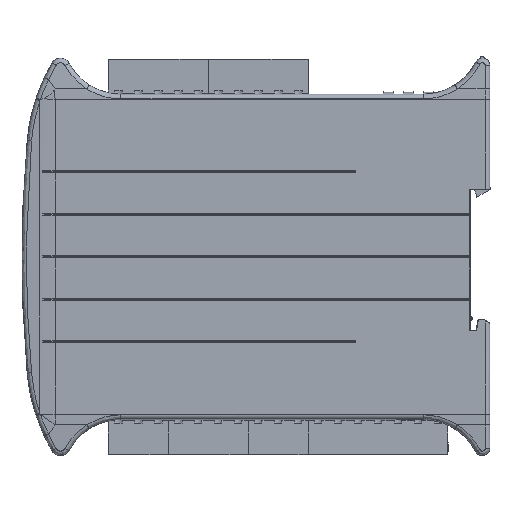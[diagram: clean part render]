
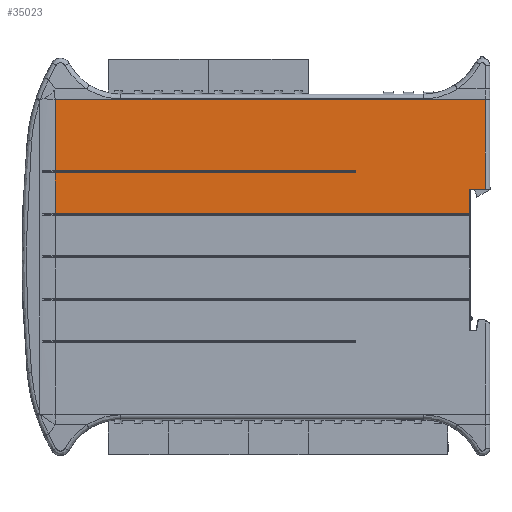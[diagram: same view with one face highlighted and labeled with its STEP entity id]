
A CAD part, left-side view. The second image highlights one B-rep face of the part: STEP entity #35023.
In plain terms, the highlighted planar face has unit normal (-1, 0, 0) as drawn and (0, 0, -1) by its records, which use the part's own axes.
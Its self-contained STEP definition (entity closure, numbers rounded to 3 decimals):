
#4987 = DIRECTION ( 'NONE',  ( 0., 1., 0. ) ) ;
#6190 = LINE ( 'NONE', #59623, #123074 ) ;
#8735 = ORIENTED_EDGE ( 'NONE', *, *, #26062, .F. ) ;
#10431 = PLANE ( 'NONE',  #89520 ) ;
#15887 = VECTOR ( 'NONE', #38801, 1000. ) ;
#19496 = EDGE_CURVE ( 'NONE', #33642, #27749, #6190, .T. ) ;
#22428 = CARTESIAN_POINT ( 'NONE',  ( 5.342, -31.851, 0. ) ) ;
#24110 = DIRECTION ( 'NONE',  ( 1., 0., 0. ) ) ;
#24978 = LINE ( 'NONE', #128638, #133778 ) ;
#26062 = EDGE_CURVE ( 'NONE', #44911, #42346, #28887, .T. ) ;
#27346 = VECTOR ( 'NONE', #171321, 1000. ) ;
#27749 = VERTEX_POINT ( 'NONE', #71008 ) ;
#28175 = CARTESIAN_POINT ( 'NONE',  ( 16.392, 19.209, 0. ) ) ;
#28887 = LINE ( 'NONE', #126332, #84012 ) ;
#31027 = VECTOR ( 'NONE', #108688, 1000. ) ;
#33642 = VERTEX_POINT ( 'NONE', #130012 ) ;
#35023 = ADVANCED_FACE ( 'NONE', ( #72072 ), #10431, .F. ) ;
#37758 = LINE ( 'NONE', #90401, #27346 ) ;
#38801 = DIRECTION ( 'NONE',  ( -1., 0., 0. ) ) ;
#38823 = EDGE_CURVE ( 'NONE', #76152, #33642, #79688, .T. ) ;
#42346 = VERTEX_POINT ( 'NONE', #96468 ) ;
#44769 = LINE ( 'NONE', #28175, #77799 ) ;
#44911 = VERTEX_POINT ( 'NONE', #121583 ) ;
#48041 = ORIENTED_EDGE ( 'NONE', *, *, #19496, .F. ) ;
#48185 = CARTESIAN_POINT ( 'NONE',  ( -4.958, -57.206, 0. ) ) ;
#51611 = CARTESIAN_POINT ( 'NONE',  ( 16.392, -31.851, 0. ) ) ;
#52999 = CARTESIAN_POINT ( 'NONE',  ( 5.342, -86.251, 0. ) ) ;
#55170 = DIRECTION ( 'NONE',  ( 0., 1., 0. ) ) ;
#56871 = LINE ( 'NONE', #57744, #132690 ) ;
#57744 = CARTESIAN_POINT ( 'NONE',  ( -4.958, -31.851, 0. ) ) ;
#57908 = VERTEX_POINT ( 'NONE', #52999 ) ;
#59623 = CARTESIAN_POINT ( 'NONE',  ( 16.392, -90.151, 0. ) ) ;
#63584 = VECTOR ( 'NONE', #4987, 1000. ) ;
#65417 = ORIENTED_EDGE ( 'NONE', *, *, #82299, .F. ) ;
#66654 = VECTOR ( 'NONE', #97446, 1000. ) ;
#66746 = CARTESIAN_POINT ( 'NONE',  ( -4.958, 19.209, 0. ) ) ;
#71008 = CARTESIAN_POINT ( 'NONE',  ( -0.808, -90.151, 0. ) ) ;
#72072 = FACE_OUTER_BOUND ( 'NONE', #145781, .T. ) ;
#75217 = EDGE_CURVE ( 'NONE', #118759, #97762, #111529, .T. ) ;
#76152 = VERTEX_POINT ( 'NONE', #151519 ) ;
#77148 = ORIENTED_EDGE ( 'NONE', *, *, #161045, .F. ) ;
#77799 = VECTOR ( 'NONE', #98334, 1000. ) ;
#79688 = LINE ( 'NONE', #172039, #31027 ) ;
#80707 = ORIENTED_EDGE ( 'NONE', *, *, #140595, .F. ) ;
#82299 = EDGE_CURVE ( 'NONE', #103049, #57908, #24978, .T. ) ;
#82368 = ORIENTED_EDGE ( 'NONE', *, *, #75217, .F. ) ;
#84012 = VECTOR ( 'NONE', #55170, 1000. ) ;
#89520 = AXIS2_PLACEMENT_3D ( 'NONE', #51611, #125745, #116662 ) ;
#90401 = CARTESIAN_POINT ( 'NONE',  ( -0.808, -59.101, 0. ) ) ;
#90574 = CARTESIAN_POINT ( 'NONE',  ( 16.392, -57.206, 0. ) ) ;
#96468 = CARTESIAN_POINT ( 'NONE',  ( -5.458, 19.209, 0. ) ) ;
#97446 = DIRECTION ( 'NONE',  ( -1., 0., 0. ) ) ;
#97762 = VERTEX_POINT ( 'NONE', #66746 ) ;
#98334 = DIRECTION ( 'NONE',  ( -1., 0., 0. ) ) ;
#100672 = EDGE_CURVE ( 'NONE', #42346, #76152, #44769, .T. ) ;
#101929 = ORIENTED_EDGE ( 'NONE', *, *, #100672, .F. ) ;
#102301 = LINE ( 'NONE', #22428, #63584 ) ;
#103049 = VERTEX_POINT ( 'NONE', #122034 ) ;
#108688 = DIRECTION ( 'NONE',  ( 0., -1., 0. ) ) ;
#111529 = LINE ( 'NONE', #163444, #66654 ) ;
#113079 = DIRECTION ( 'NONE',  ( 0., -1., 0. ) ) ;
#116662 = DIRECTION ( 'NONE',  ( 1., 0., 0. ) ) ;
#118759 = VERTEX_POINT ( 'NONE', #120755 ) ;
#119800 = VERTEX_POINT ( 'NONE', #48185 ) ;
#120755 = CARTESIAN_POINT ( 'NONE',  ( 5.342, 19.209, 0. ) ) ;
#121583 = CARTESIAN_POINT ( 'NONE',  ( -5.458, -57.206, 0. ) ) ;
#122034 = CARTESIAN_POINT ( 'NONE',  ( -0.808, -86.251, 0. ) ) ;
#123074 = VECTOR ( 'NONE', #128149, 1000. ) ;
#125745 = DIRECTION ( 'NONE',  ( 0., 0., 1. ) ) ;
#126332 = CARTESIAN_POINT ( 'NONE',  ( -5.458, -31.851, 0. ) ) ;
#128149 = DIRECTION ( 'NONE',  ( 1., 0., 0. ) ) ;
#128638 = CARTESIAN_POINT ( 'NONE',  ( 24.342, -86.251, 0. ) ) ;
#130012 = CARTESIAN_POINT ( 'NONE',  ( -23.579, -90.151, 0. ) ) ;
#132690 = VECTOR ( 'NONE', #113079, 1000. ) ;
#133778 = VECTOR ( 'NONE', #24110, 1000. ) ;
#140595 = EDGE_CURVE ( 'NONE', #97762, #119800, #56871, .T. ) ;
#145112 = LINE ( 'NONE', #90574, #15887 ) ;
#145781 = EDGE_LOOP ( 'NONE', ( #101929, #8735, #163003, #80707, #82368, #77148, #65417, #147830, #48041, #159328 ) ) ;
#147830 = ORIENTED_EDGE ( 'NONE', *, *, #162986, .F. ) ;
#151519 = CARTESIAN_POINT ( 'NONE',  ( -23.579, 19.209, 0. ) ) ;
#159328 = ORIENTED_EDGE ( 'NONE', *, *, #38823, .F. ) ;
#161045 = EDGE_CURVE ( 'NONE', #57908, #118759, #102301, .T. ) ;
#161557 = EDGE_CURVE ( 'NONE', #119800, #44911, #145112, .T. ) ;
#162986 = EDGE_CURVE ( 'NONE', #27749, #103049, #37758, .T. ) ;
#163003 = ORIENTED_EDGE ( 'NONE', *, *, #161557, .F. ) ;
#163444 = CARTESIAN_POINT ( 'NONE',  ( 16.392, 19.209, 0. ) ) ;
#171321 = DIRECTION ( 'NONE',  ( 0., 1., 0. ) ) ;
#172039 = CARTESIAN_POINT ( 'NONE',  ( -23.579, -31.851, 0. ) ) ;
